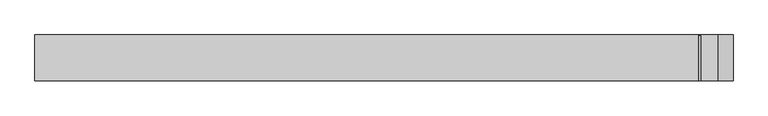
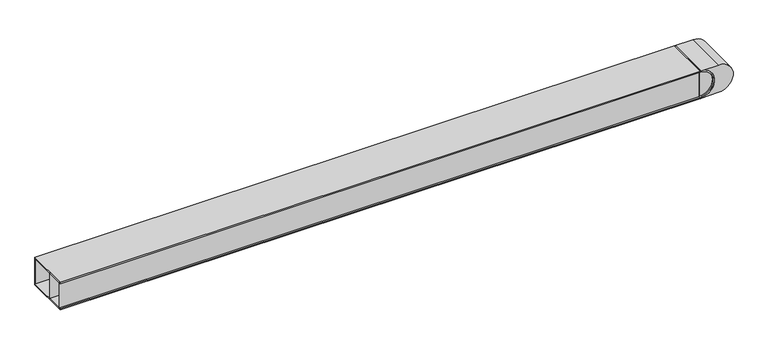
"""IFC4 building model written with IfcOpenShell, lengths in millimetres: light fixture geometry, Lighting-Wall-Betacalco-Block-Straight : BLKW-DT1-PW01-TR01-SL04-EP01-LP020-CR80-CTA40."""

from ifc_helpers import new_model, si_unit, point, frame, frame_2d, origin, place, context, project, spatial, polyline, circle_curve, trimmed, segment, composite_curve, outline, extrude, source, transform, mapped, element, save
from ifc_brep_helpers import plane_surface, cylinder_surface, revolved_surface, advanced_brep


def light_fixture_3b8be05b(model_context):
    return source(origin(), model_context, "Body", "SolidModel", [
        extrude(outline(composite_curve([segment(trimmed(circle_curve(frame_2d((47.3273437, 736.6)), 33.3375), [point((13.9898437, 736.6))], [point((80.6648437, 736.6))], False, "CARTESIAN"), True, "CONTINUOUS"), segment(polyline([(80.6648437, 736.6), (78.1248437, 736.6)]), True, "CONTINUOUS"), segment(trimmed(circle_curve(frame_2d((47.3273437, 736.6)), 30.7975), [point((78.1248437, 736.6))], [point((16.5298437, 736.6))], True, "CARTESIAN"), True, "CONTINUOUS"), segment(polyline([(16.5298437, 736.6), (13.9898437, 736.6)]), True, "CONTINUOUS")], self_intersect=False)), frame((0.0, 0.0, 0.0), z_axis=(0.0, 1.0, 0.0), x_axis=(0.0, 0.0, 1.0)), (0.0, 0.0, 1.0), 100.0125),
        extrude(outline(composite_curve([segment(trimmed(circle_curve(frame_2d((47.3273437, 736.6)), 30.7975), [point((16.5298437, 736.6))], [point((78.1248437, 736.6))], False, "CARTESIAN"), True, "CONTINUOUS"), segment(polyline([(78.1248437, 736.6), (16.5298437, 736.6)]), True, "CONTINUOUS")], self_intersect=False)), frame((0.0, 3.7029412, 0.0), z_axis=(0.0, 1.0, 0.0), x_axis=(0.0, 0.0, 1.0)), (0.0, 0.0, 1.0), 1.5875),
        advanced_brep(
        [(736.6, 100.0125, 80.6648437), (736.6, 100.0125, 13.9898437), (736.6, 101.6, 13.9898437), (736.6, 101.6, 80.6648437), (779.4625, 101.6, 80.6648437), (779.4625, 101.6, 13.9898437), (736.6, 0.0, 80.6648437), (736.6, 0.0, 13.9898437), (779.4625, 0.0, 13.9898437), (779.4625, 0.0, 80.6648437)],
        [
            (0, 1),
            (1, 0, circle_curve(frame((736.6, 100.0125, 47.3273437), z_axis=(0.0, -1.0, 0.0), x_axis=(1.0, 0.0, 0.0)), 33.3375)),
            (2, 3),
            (3, 4),
            (4, 5, circle_curve(frame((779.4625, 101.6, 47.3273437), z_axis=(0.0, 1.0, 0.0), x_axis=(1.0, 0.0, 0.0)), 33.3375)),
            (5, 2),
            (0, 3),
            (2, 1),
            (6, 7, circle_curve(frame((736.6, 0.0, 47.3273437), z_axis=(0.0, 1.0, 0.0), x_axis=(1.0, 0.0, 0.0)), 33.3375)),
            (7, 8),
            (8, 9, circle_curve(frame((779.4625, 0.0, 47.3273437), z_axis=(0.0, -1.0, 0.0), x_axis=(1.0, 0.0, 0.0)), 33.3375)),
            (9, 6),
            (6, 0),
            (1, 7),
            (5, 8),
            (4, 9),
        ],
        [
            plane_surface(frame((769.9375, 100.0125, 47.3273437), z_axis=(0.0, -1.0, 0.0), x_axis=(0.0, 0.0, 1.0))),
            plane_surface(frame((769.9375, 101.6, 47.3273437), z_axis=(0.0, 1.0, 0.0), x_axis=(0.0, 0.0, -1.0))),
            plane_surface(frame((736.6, 100.0125, 80.6648437), z_axis=(-1.0, 0.0, 0.0), x_axis=(0.0, 1.0, 0.0))),
            plane_surface(frame((769.9375, 0.0, 47.3273437), z_axis=(0.0, -1.0, 0.0), x_axis=(0.0, 0.0, -1.0))),
            revolved_surface(polyline([(769.9375, 100.0125, 47.3273437), (769.9375, 0.0, 47.3273437)]), (736.6, 101.6, 47.3273437), (0.0, 1.0, 0.0)),
            plane_surface(frame((736.6, 0.0, 13.9898437), z_axis=(0.0, 0.0, -1.0), x_axis=(0.0, 1.0, 0.0))),
            cylinder_surface(frame((779.4625, 101.6, 47.3273437), z_axis=(0.0, -1.0, 0.0), x_axis=(1.0, 0.0, 0.0)), 33.3375),
            plane_surface(frame((779.4625, 0.0, 80.6648437), z_axis=(0.0, 0.0, 1.0), x_axis=(0.0, 1.0, 0.0))),
        ],
        [
            (0, [[1, 2]]),
            (1, [[3, 4, 5, 6]]),
            (2, [[-1, 7, -3, 8]]),
            (3, [[9, 10, 11, 12]]),
            (4, [[-9, 13, -2, 14]]),
            (5, [[-10, -14, -8, -6, 15]]),
            (6, [[-11, -15, -5, 16]]),
            (7, [[-12, -16, -4, -7, -13]]),
        ],
    ),
        extrude(outline(polyline([(80.264, 5.867391), (80.264, 11.734422), (82.042, 11.734422), (82.042, 4.6224219), (69.3420002, 0.0), (50.292, 0.0), (50.292, 10.642789), (56.642, 12.954), (57.2501118, 11.2832265), (52.07, 9.39782), (52.07, 1.778), (69.0284906, 1.778), (80.264, 5.867391)])), frame((558.8, 0.0, 0.0), z_axis=(1.0, 0.0, 0.0), x_axis=(0.0, 1.0, 0.0)), (0.0, 0.0, 1.0), 76.2),
        extrude(outline(polyline([(88.3840625, 3.3774529), (82.0340625, 1.0662419), (81.4259507, 2.7370154), (86.6060625, 4.6224219), (86.6060625, 12.2422419), (69.6475719, 12.2422419), (58.4120625, 8.1528509), (58.4120625, 2.2858199), (56.6340625, 2.2858199), (56.6340625, 9.3978199), (69.3340625, 14.0202419), (88.3840625, 14.0202419), (88.3840625, 3.3774529)])), frame((558.8, 0.0, 0.0), z_axis=(1.0, 0.0, 0.0), x_axis=(0.0, 1.0, 0.0)), (0.0, 0.0, 1.0), 76.2),
        extrude(outline(polyline([(80.264, 5.867391), (80.264, 11.734422), (82.042, 11.734422), (82.042, 4.6224219), (69.3420002, 0.0), (50.292, 0.0), (50.292, 10.642789), (56.642, 12.954), (57.2501118, 11.2832265), (52.07, 9.39782), (52.07, 1.778), (69.0284906, 1.778), (80.264, 5.867391)])), frame((-635.0, 0.0, 0.0), z_axis=(1.0, 0.0, 0.0), x_axis=(0.0, 1.0, 0.0)), (0.0, 0.0, 1.0), 76.2),
        extrude(outline(polyline([(88.3840625, 3.3774529), (82.0340625, 1.0662419), (81.4259507, 2.7370154), (86.6060625, 4.6224219), (86.6060625, 12.2422419), (69.6475719, 12.2422419), (58.4120625, 8.1528509), (58.4120625, 2.2858199), (56.6340625, 2.2858199), (56.6340625, 9.3978199), (69.3340625, 14.0202419), (88.3840625, 14.0202419), (88.3840625, 3.3774529)])), frame((-635.0, 0.0, 0.0), z_axis=(1.0, 0.0, 0.0), x_axis=(0.0, 1.0, 0.0)), (0.0, 0.0, 1.0), 76.2),
        extrude(outline(polyline([(736.6, 5.2904412), (736.6, 3.7029412), (-736.6, 3.7029412), (-736.6, 5.2904412), (736.6, 5.2904412)])), frame((0.0, 0.0, 16.5298437), z_axis=(0.0, 0.0, 1.0), x_axis=(1.0, 0.0, 0.0)), (0.0, 0.0, 1.0), 61.595),
        extrude(outline(polyline([(736.6, 43.340087), (736.6, 41.752587), (-736.6, 41.752587), (-736.6, 43.340087), (736.6, 43.340087)])), frame((0.0, 0.0, 16.5298437), z_axis=(0.0, 0.0, 1.0), x_axis=(1.0, 0.0, 0.0)), (0.0, 0.0, 1.0), 61.595),
        extrude(outline(polyline([(736.6, 101.6), (736.6, 100.0125), (-736.6, 100.0125), (-736.6, 101.6), (736.6, 101.6)])), frame((0.0, 0.0, 16.5298437), z_axis=(0.0, 0.0, 1.0), x_axis=(1.0, 0.0, 0.0)), (0.0, 0.0, 1.0), 61.595),
        extrude(outline(polyline([(736.6, 101.6), (736.6, 0.0), (-736.6, 0.0), (-736.6, 101.6), (736.6, 101.6)])), frame((0.0, 0.0, 13.9898438), z_axis=(0.0, 0.0, 1.0), x_axis=(1.0, 0.0, 0.0)), (0.0, 0.0, 1.0), 2.54),
        extrude(outline(polyline([(736.6, 101.6), (736.6, 0.0), (-736.6, 0.0), (-736.6, 101.6), (736.6, 101.6)])), frame((0.0, 0.0, 78.1248438), z_axis=(0.0, 0.0, 1.0), x_axis=(1.0, 0.0, 0.0)), (0.0, 0.0, 1.0), 2.54),
    ])


if __name__ == "__main__":
    model = new_model("IFC4")
    model_context = context("Model", 3, world=origin())
    ifc_project = project(units=[si_unit("LENGTHUNIT", "METRE", prefix="MILLI")], contexts=[model_context])
    site = spatial("IfcSite", under=ifc_project)
    building = spatial("IfcBuilding", under=site)
    placement = place(None, origin())
    light_fixture_shape = light_fixture_3b8be05b(model_context)
    element("IfcLightFixture", 1, ObjectType="Lighting-Wall-Betacalco-Block-Straight : BLKW-DT1-PW01-TR01-SL04-EP01-LP020-CR80-CTA40", at=placement, inside=building, context=model_context, shape_type="MappedRepresentation", body=[
        mapped(light_fixture_shape, transform((0.0, 0.0, 0.0), x_axis=(1.0, 0.0, 0.0), y_axis=(0.0, 1.0, 0.0), z_axis=(0.0, 0.0, 1.0))),
    ])
    save(model, "model.ifc")
